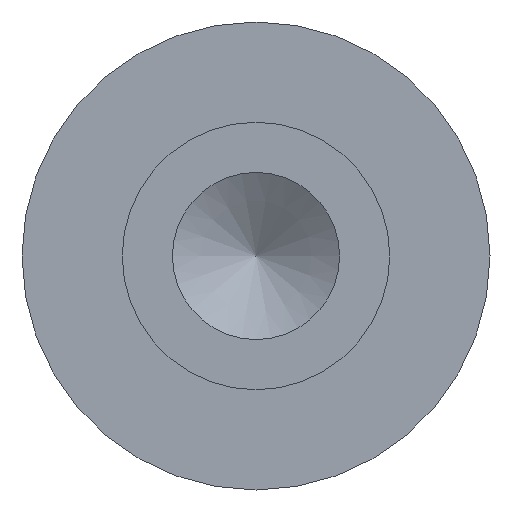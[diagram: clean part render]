
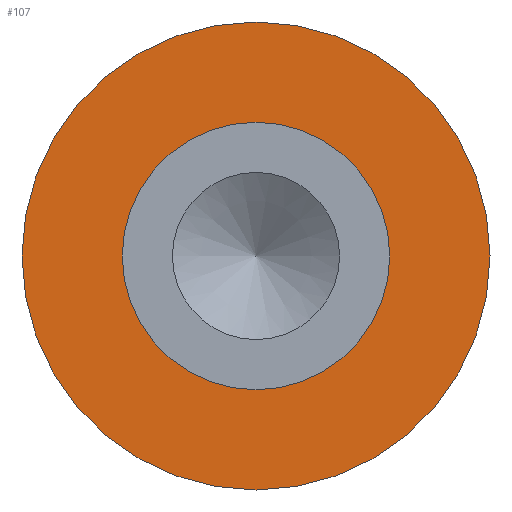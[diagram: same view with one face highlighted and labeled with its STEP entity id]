
A CAD part, left-side view. The second image highlights one B-rep face of the part: STEP entity #107.
In plain terms, the highlighted planar face has unit normal (-1, 0, 0).
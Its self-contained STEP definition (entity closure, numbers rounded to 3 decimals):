
#13=PLANE($,#124);
#19=FACE_BOUND($,#45,.T.);
#34=FACE_OUTER_BOUND($,#44,.T.);
#44=EDGE_LOOP($,(#89));
#45=EDGE_LOOP($,(#90));
#59=CIRCLE($,#122,0.508);
#61=CIRCLE($,#125,0.889);
#68=VERTEX_POINT($,#184);
#70=VERTEX_POINT($,#189);
#77=EDGE_CURVE($,#68,#68,#59,.T.);
#79=EDGE_CURVE($,#70,#70,#61,.T.);
#89=ORIENTED_EDGE($,*,*,#79,.F.);
#90=ORIENTED_EDGE($,*,*,#77,.T.);
#107=ADVANCED_FACE($,(#34,#19),#13,.T.);
#122=AXIS2_PLACEMENT_3D($,#185,#148,#149);
#124=AXIS2_PLACEMENT_3D($,#188,#152,#153);
#125=AXIS2_PLACEMENT_3D($,#190,#154,#155);
#148=DIRECTION('center_axis',(1.,0.,0.));
#149=DIRECTION('ref_axis',(0.,1.,0.));
#152=DIRECTION('center_axis',(-1.,0.,0.));
#153=DIRECTION('ref_axis',(0.,0.,1.));
#154=DIRECTION('center_axis',(1.,0.,0.));
#155=DIRECTION('ref_axis',(0.,1.,0.));
#184=CARTESIAN_POINT('',(1.295,0.508,0.));
#185=CARTESIAN_POINT('Origin',(1.295,0.,0.));
#188=CARTESIAN_POINT('Origin',(1.295,0.699,0.));
#189=CARTESIAN_POINT('',(1.295,0.889,0.));
#190=CARTESIAN_POINT('Origin',(1.295,0.,0.));
